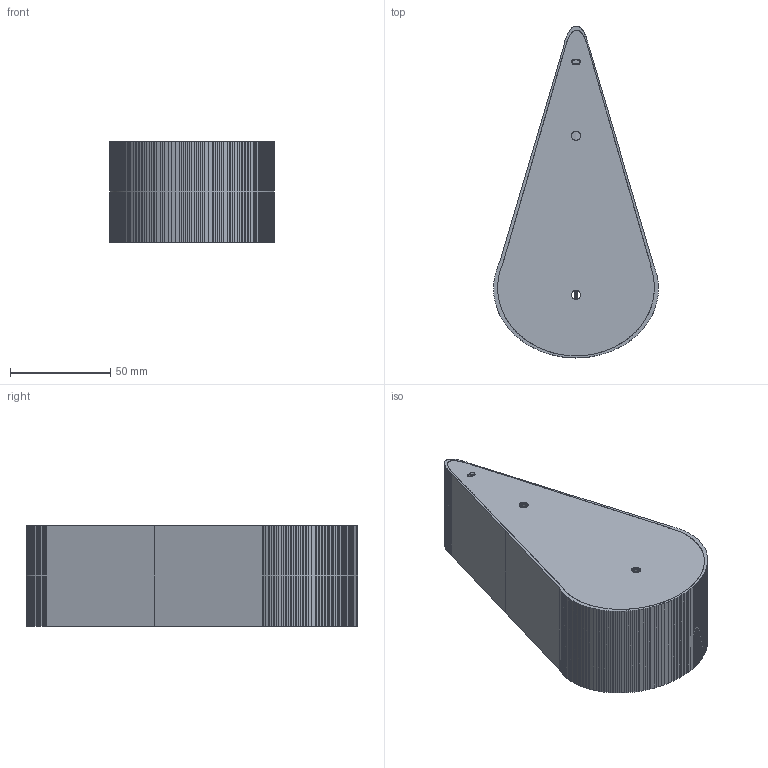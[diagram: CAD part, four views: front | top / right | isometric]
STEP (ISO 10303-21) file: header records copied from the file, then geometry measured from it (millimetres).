
FILE_DESCRIPTION(('Open CASCADE Model'),'2;1');
FILE_NAME('pinrose_unit_v3','2026-11-23T07:02:13',('Author'),( 'Open CASCADE'),'Open CASCADE STEP processor 8.0','build123d', 'Unknown');
FILE_SCHEMA(('AUTOMOTIVE_DESIGN { 1 0 10303 214 1 1 1 1 }'));
Length unit declared in the file: millimetre
Products named in the file (8): pinrose_unit_v3; pinrus_v3_cover; pinruswall_v3_bracket; motor_strap_v3; pinruso_ring; motor_placeholder_D22x55; coupler_placeholder; crank_wire_placeholder
Assembly tree (7 placements, depth 2):
  pinrose_unit_v3
    pinrus_v3_cover
    pinruswall_v3_bracket
    motor_strap_v3
    pinruso_ring
    motor_placeholder_D22x55
    coupler_placeholder
    crank_wire_placeholder
Bounding box: 82.4 x 165.83 x 50 mm (x, y, z)
Volume: 100378.1 mm3; surface area: 84391.2 mm2
Topology: 7 solids, 7 shells, 5552 faces, 13868 edges, 8342 vertices
Faces by surface type: plane 5548, cylinder 4
Full cylindrical faces by diameter (mm): 4 x1, 7 x1, 10 x1, 22 x1
Entity records: 336460 total; most frequent: CARTESIAN_POINT 57887, DIRECTION 50351, LINE 39207, VECTOR 39207, ORIENTED_EDGE 27736, PCURVE 27736, DEFINITIONAL_REPRESENTATION 27736, EDGE_CURVE 13868
